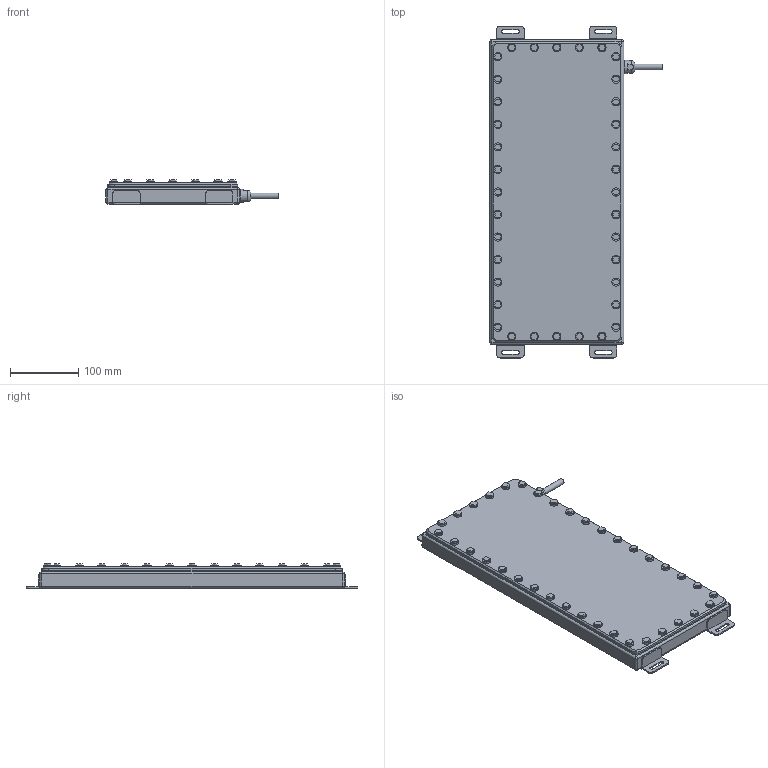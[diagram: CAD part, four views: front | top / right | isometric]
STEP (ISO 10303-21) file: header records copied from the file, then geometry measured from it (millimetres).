
FILE_DESCRIPTION (( 'STEP AP214' ), '1' );
FILE_NAME ('EFFI-BL-IP69K-150-400-ZZZ-FOOD.STEP', '2021-06-16T14:35:10', ( '' ), ( '' ), 'SwSTEP 2.0', 'SolidWorks 2021', '' );
FILE_SCHEMA (( 'AUTOMOTIVE_DESIGN' ));
Length unit declared in the file: millimetre
Products named in the file (1): EFFI-BL-IP69K-150-400-ZZZ-FOOD
Bounding box: 252 x 486 x 35.6 mm (x, y, z)
Volume: 2707100.3 mm3; surface area: 396089.7 mm2
Topology: 22 solids, 22 shells, 491 faces, 1134 edges, 737 vertices
Faces by surface type: plane 376, cylinder 90, bspline 9, sphere 8, cone 5, torus 3
Full cylindrical faces by diameter (mm): 7 x1, 8.4 x1, 12 x37, 14 x1, 19 x1
Entity records: 14824 total; most frequent: CARTESIAN_POINT 3350, DIRECTION 2213, ORIENTED_EDGE 2152, EDGE_CURVE 1076, VECTOR 855, LINE 855, VERTEX_POINT 730, AXIS2_PLACEMENT_3D 679
